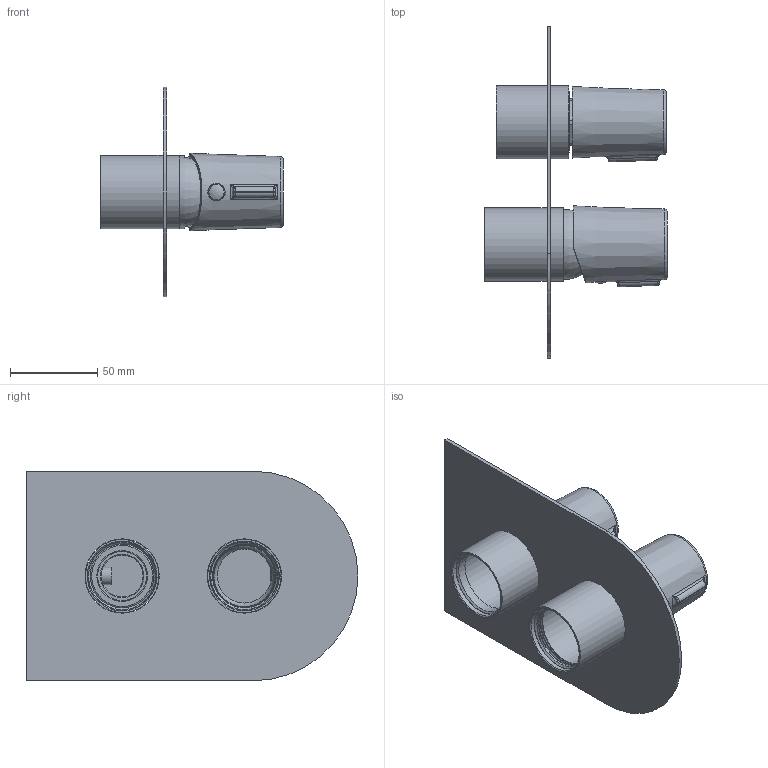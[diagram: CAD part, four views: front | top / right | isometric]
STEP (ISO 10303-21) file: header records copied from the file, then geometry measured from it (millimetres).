
FILE_DESCRIPTION (( 'STEP AP203' ), '1' );
FILE_NAME ('34CP02525.STEP', '2021-01-04T08:46:25', ( '' ), ( '' ), 'SwSTEP 2.0', 'SolidWorks 2018', '' );
FILE_SCHEMA (( 'CONFIG_CONTROL_DESIGN' ));
Length unit declared in the file: millimetre
Products named in the file (1): 34CP02525
Bounding box: 104.7 x 190 x 120 mm (x, y, z)
Volume: 102584.7 mm3; surface area: 102085.7 mm2
Topology: 9 solids, 9 shells, 182 faces, 397 edges, 252 vertices
Faces by surface type: plane 61, cylinder 44, bspline 33, cone 30, torus 12, sphere 2
Full cylindrical faces by diameter (mm): 6.8 x1, 9.5 x1, 10 x1, 10.1 x1, 24 x1, 25.3 x1, 28 x1, 28.3 x1, 31 x1, 32 x1, 35.8 x2, 36.5 x1, 36.9 x1, 37 x1, 39 x4, 42 x2, 42.5 x2
Entity records: 7719 total; most frequent: CARTESIAN_POINT 4208, DIRECTION 661, ORIENTED_EDGE 646, EDGE_CURVE 323, AXIS2_PLACEMENT_3D 297, EDGE_LOOP 273, VERTEX_POINT 236, FACE_OUTER_BOUND 212
